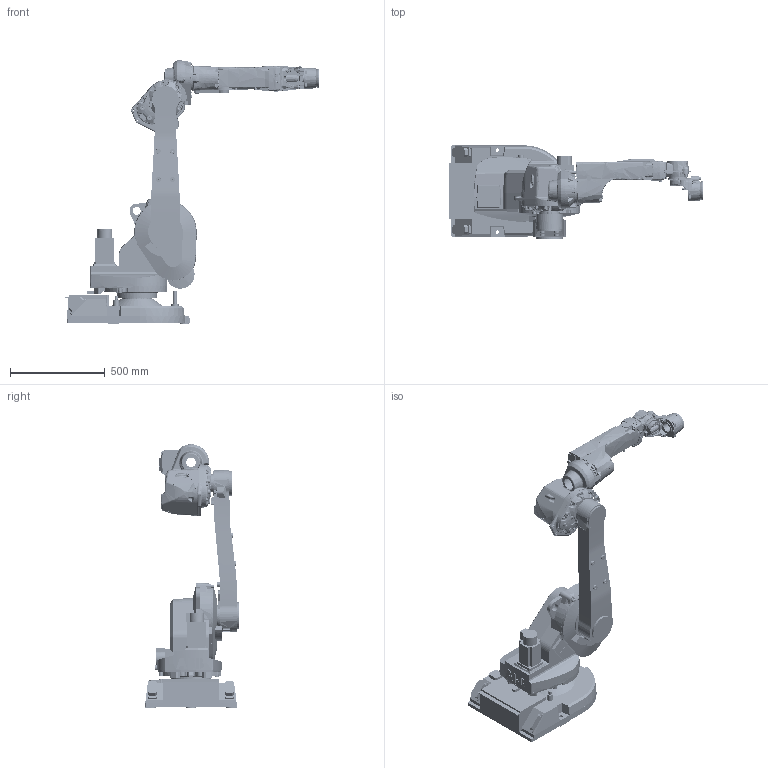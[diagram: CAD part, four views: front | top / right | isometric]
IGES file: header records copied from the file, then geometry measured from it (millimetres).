
Start section: SolidWorks IGES file using analytic representation for surfaces
Global section: file name: C:\Project\1660ID\RibCAD\IRB1600ID_X_155\NB\IRB 1600ID_6-155_IRC5_rev0_IGES_c\IRB1600ID_6-155.IGS; native system: SolidWorks 2014; preprocessor: SolidWorks 2014; author: CNJISHA2; date: 160324.143250; units: millimetre
Bounding box: 1345.26 x 494.27 x 1391.98 mm (x, y, z)
Surface area: 3674553.3 mm2 (no closed solid volume)
Topology: 0 solids, 0 shells, 4035 faces, 53348 edges, 53253 vertices
Faces by surface type: bspline 2579, revolution 1456
